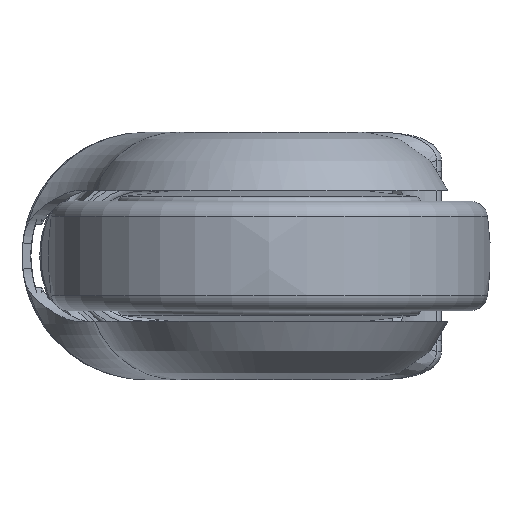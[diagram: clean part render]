
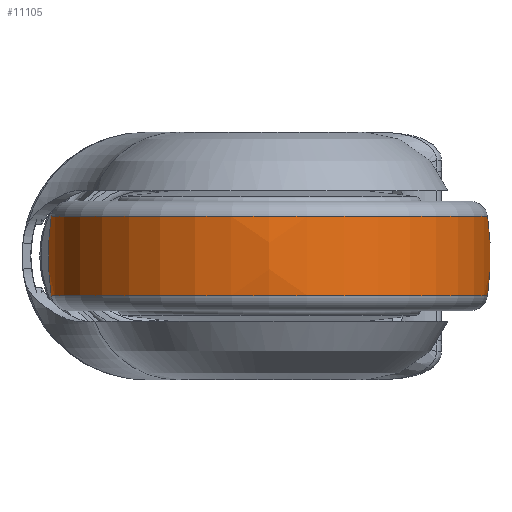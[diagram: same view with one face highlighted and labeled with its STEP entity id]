
A CAD part, front view. The second image highlights one B-rep face of the part: STEP entity #11105.
In plain terms, the highlighted free-form (B-spline) face has degree [3, 3] with [7, 4] control points.
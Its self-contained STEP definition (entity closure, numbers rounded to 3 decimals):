
#10556=CARTESIAN_POINT('',(11.2,0.,0.));
#10557=DIRECTION('',(-1.,0.,0.));
#10558=DIRECTION('',(0.,1.,0.));
#10559=AXIS2_PLACEMENT_3D('',#10556,#10557,#10558);
#10561=CARTESIAN_POINT('',(0.,-17.482,0.));
#10562=DIRECTION('',(0.,0.,1.));
#10563=DIRECTION('',(0.14,0.99,0.));
#10564=AXIS2_PLACEMENT_3D('',#10561,#10562,#10563);
#10571=CARTESIAN_POINT('',(0.,17.482,0.));
#10572=DIRECTION('',(0.,0.,-1.));
#10573=DIRECTION('',(0.14,-0.99,0.));
#10574=AXIS2_PLACEMENT_3D('',#10571,#10572,#10573);
#10783=CARTESIAN_POINT('',(-11.2,0.,0.));
#10784=DIRECTION('',(-1.,0.,0.));
#10785=DIRECTION('',(0.,1.,0.));
#10786=AXIS2_PLACEMENT_3D('',#10783,#10784,#10785);
#10970=CARTESIAN_POINT('',(11.2,61.73,0.));
#10971=CARTESIAN_POINT('',(-11.2,61.73,0.));
#10972=VERTEX_POINT('',#10970);
#10973=VERTEX_POINT('',#10971);
#11018=CARTESIAN_POINT('',(11.2,-61.73,
0.));
#11019=CARTESIAN_POINT('',(-11.2,-61.73,
0.));
#11020=VERTEX_POINT('',#11018);
#11021=VERTEX_POINT('',#11019);
#11066=CARTESIAN_POINT('',(11.645,61.544,3.872));
#11067=CARTESIAN_POINT('',(3.909,62.68,3.943));
#11068=CARTESIAN_POINT('',(-3.909,62.68,
3.943));
#11069=CARTESIAN_POINT('',(-11.645,61.544,
3.872));
#11070=CARTESIAN_POINT('',(11.645,63.927,
-34.002));
#11071=CARTESIAN_POINT('',(3.909,65.107,
-34.63));
#11072=CARTESIAN_POINT('',(-3.909,65.107,
-34.63));
#11073=CARTESIAN_POINT('',(-11.645,63.927,
-34.002));
#11074=CARTESIAN_POINT('',(11.645,37.949,
-61.666));
#11075=CARTESIAN_POINT('',(3.909,38.649,
-62.804));
#11076=CARTESIAN_POINT('',(-3.909,38.649,
-62.804));
#11077=CARTESIAN_POINT('',(-11.645,37.949,
-61.666));
#11078=CARTESIAN_POINT('',(11.645,0.,-61.666));
#11079=CARTESIAN_POINT('',(3.909,0.,-62.804));
#11080=CARTESIAN_POINT('',(-3.909,0.,-62.804));
#11081=CARTESIAN_POINT('',(-11.645,0.,
-61.666));
#11082=CARTESIAN_POINT('',(11.645,-37.949,
-61.666));
#11083=CARTESIAN_POINT('',(3.909,-38.649,
-62.804));
#11084=CARTESIAN_POINT('',(-3.909,-38.649,
-62.804));
#11085=CARTESIAN_POINT('',(-11.645,-37.949,
-61.666));
#11086=CARTESIAN_POINT('',(11.645,-63.927,
-34.002));
#11087=CARTESIAN_POINT('',(3.909,-65.107,
-34.63));
#11088=CARTESIAN_POINT('',(-3.909,-65.107,
-34.63));
#11089=CARTESIAN_POINT('',(-11.645,-63.927,
-34.002));
#11090=CARTESIAN_POINT('',(11.645,-61.544,
3.872));
#11091=CARTESIAN_POINT('',(3.909,-62.68,
3.943));
#11092=CARTESIAN_POINT('',(-3.909,-62.68,
3.943));
#11093=CARTESIAN_POINT('',(-11.645,-61.544,
3.872));
#11094=(BOUNDED_SURFACE()B_SPLINE_SURFACE(3,3,((#11066,#11067,#11068,#11069),(
#11070,#11071,#11072,#11073),(#11074,#11075,#11076,#11077),(#11078,#11079,
#11080,#11081),(#11082,#11083,#11084,#11085),(#11086,#11087,#11088,#11089),(
#11090,#11091,#11092,#11093)),.UNSPECIFIED.,.F.,.F.,.F.)B_SPLINE_SURFACE_WITH_KNOTS((4,3,4),(4,4),(0.,1.,2.),(0.,1.),.UNSPECIFIED.)GEOMETRIC_REPRESENTATION_ITEM()RATIONAL_B_SPLINE_SURFACE(((1.194,1.185,
1.185,1.194),(0.943,0.936,
0.936,0.943),(0.943,0.936,
0.936,0.943),(1.194,1.185,
1.185,1.194),(0.943,0.936,
0.936,0.943),(0.943,0.936,
0.936,0.943),(1.194,1.185,
1.185,1.194)))REPRESENTATION_ITEM('')SURFACE());
#11096=ORIENTED_EDGE('',*,*,#11095,.T.);
#11098=ORIENTED_EDGE('',*,*,#11097,.T.);
#11100=ORIENTED_EDGE('',*,*,#11099,.F.);
#11102=ORIENTED_EDGE('',*,*,#11101,.F.);
#11103=EDGE_LOOP('',(#11096,#11098,#11100,#11102));
#11104=FACE_OUTER_BOUND('',#11103,.F.);
#10560=CIRCLE('',#10559,61.73);
#10565=CIRCLE('',#10564,80.);
#10575=CIRCLE('',#10574,80.);
#10787=CIRCLE('',#10786,61.73);
#11095=EDGE_CURVE('',#10972,#10973,#10565,.T.);
#11097=EDGE_CURVE('',#10973,#11021,#10787,.T.);
#11099=EDGE_CURVE('',#11020,#11021,#10575,.T.);
#11101=EDGE_CURVE('',#10972,#11020,#10560,.T.);
#11105=ADVANCED_FACE('',(#11104),#11094,.T.);
